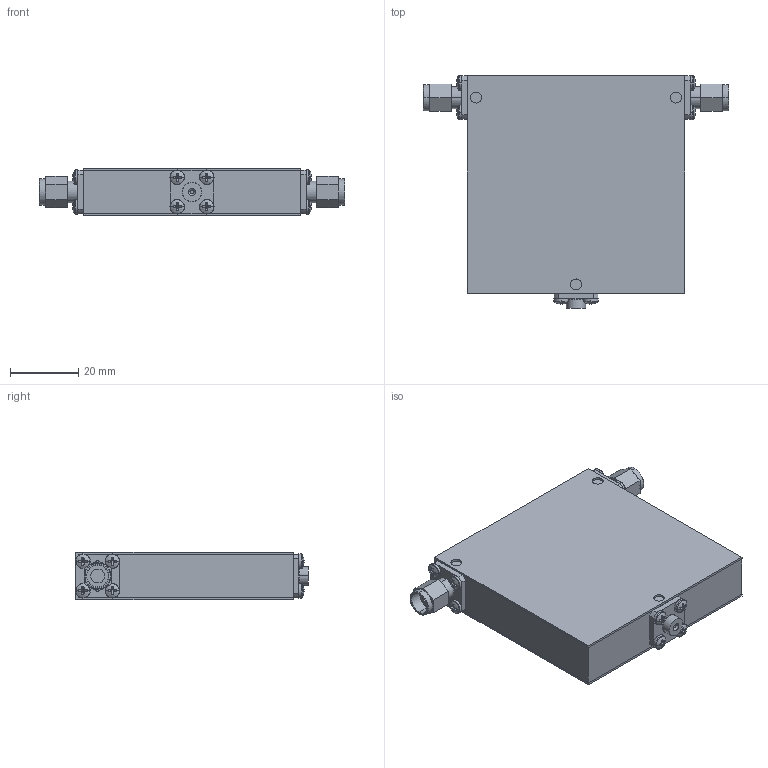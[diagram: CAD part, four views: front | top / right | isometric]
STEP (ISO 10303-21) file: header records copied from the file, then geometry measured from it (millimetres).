
FILE_DESCRIPTION (( 'STEP AP214' ), '1' );
FILE_NAME ('D3I1530-3 2.5x2.5x0.55 MM.step', '2021-12-01T20:56:04', ( '' ), ( '' ), 'SwSTEP 2.0', 'SolidWorks 2016', '' );
FILE_SCHEMA (( 'AUTOMOTIVE_DESIGN' ));
Length unit declared in the file: inch
Products named in the file (6): 030013-1A Same Base thickness as connectors; D3I1525 2.5x2.475x0.45; pan cross head_ai_CR-PHMS 0.086-56x0.125x0.125-N; D3I1525 2.5x2.5x0.55; D3I1530-3 2.5x2.5x0.55 MM; Delta SMA-Male
Assembly tree (17 placements, depth 2):
  D3I1530-3 2.5x2.5x0.55 MM
    D3I1525 2.5x2.475x0.45
    D3I1525 2.5x2.5x0.55
    030013-1A Same Base thickness as connectors
    pan cross head_ai_CR-PHMS 0.086-56x0.125x0.125-N  x12
    Delta SMA-Male  x2
Bounding box: 89.26 x 68.03 x 13.97 mm (x, y, z)
Volume: 57945.2 mm3; surface area: 32221.5 mm2
Topology: 17 solids, 17 shells, 430 faces, 980 edges, 604 vertices
Faces by surface type: plane 246, cylinder 118, torus 38, sphere 24, cone 4
Entity records: 4284 total; most frequent: DIRECTION 774, CARTESIAN_POINT 668, ORIENTED_EDGE 632, EDGE_CURVE 316, AXIS2_PLACEMENT_3D 308, VERTEX_POINT 202, EDGE_LOOP 168, VECTOR 158
